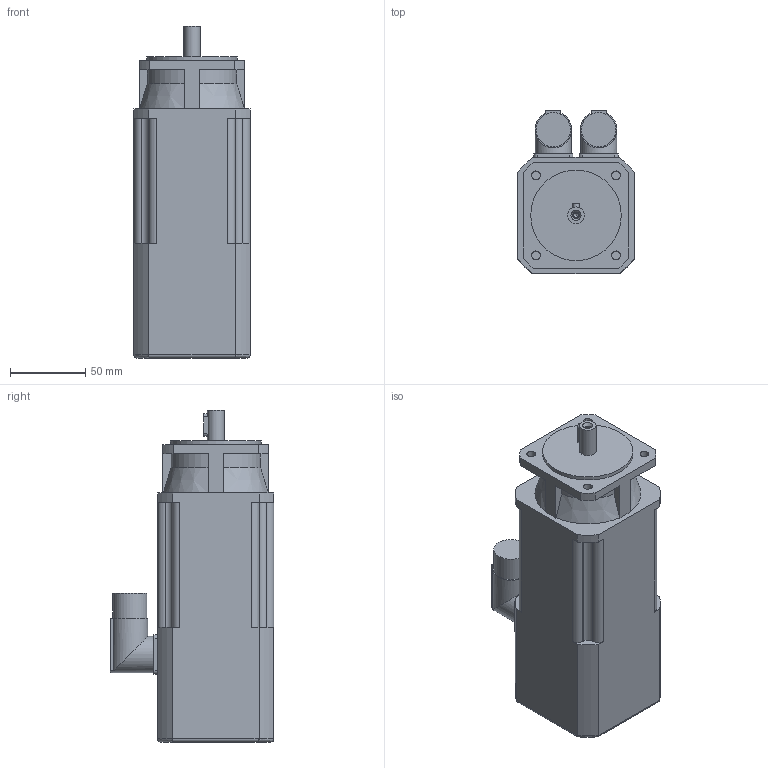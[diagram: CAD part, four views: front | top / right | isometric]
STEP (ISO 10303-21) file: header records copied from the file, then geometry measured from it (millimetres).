
FILE_DESCRIPTION(/* description */ (''),/* implementation_level */ '2;1');
FILE_NAME(/* name */ '\\Lafnas01\disegni\Archivi Lafert\3D\CAD 3D\MODELLI\Assiemi clienti\Serad\Modelli 3D Serad\B36I\Encoder\Enc Without Brake\B36E2Ixx6ARx2033.ipt.stp',/* time_stamp */ '2015-09-07T10:49:00+02:00',/* author */ ('Pastrello Ylenia'),/* organization */ (''),/* preprocessor_version */ 'ST-DEVELOPER v15.6',/* originating_system */ 'Autodesk Inventor 2015',/* authorisation */ '');
FILE_SCHEMA (('AUTOMOTIVE_DESIGN { 1 0 10303 214 3 1 1 }'));
Length unit declared in the file: millimetre
Products named in the file (1): B36E2Ixx6ARx2033
Bounding box: 77 x 108.5 x 220 mm (x, y, z)
Volume: 1107085 mm3; surface area: 79844.7 mm2
Topology: 1 solids, 1 shells, 135 faces, 364 edges, 240 vertices
Faces by surface type: plane 64, cylinder 56, cone 11, torus 4
Full cylindrical faces by diameter (mm): 3.242 x1, 4.3 x1, 5.8 x4, 11 x1, 22.7 x2, 24 x2, 60 x1
Entity records: 4274 total; most frequent: CARTESIAN_POINT 876, DIRECTION 712, ORIENTED_EDGE 686, EDGE_CURVE 343, AXIS2_PLACEMENT_3D 255, VERTEX_POINT 235, LINE 202, VECTOR 202
